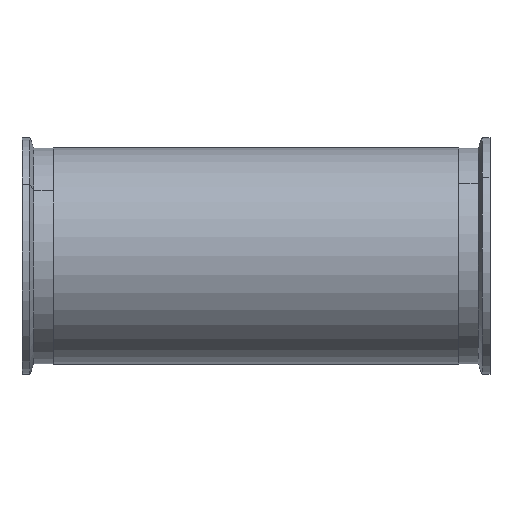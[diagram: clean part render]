
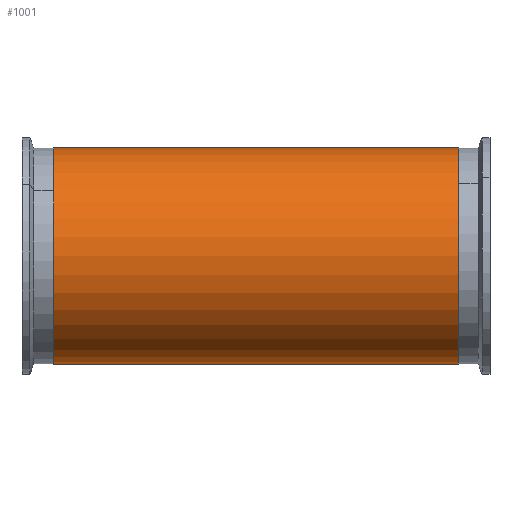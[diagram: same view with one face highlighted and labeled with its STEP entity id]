
A CAD part, front view. The second image highlights one B-rep face of the part: STEP entity #1001.
In plain terms, the highlighted cylindrical face has radius 76.2 mm (diameter 152.4 mm), a partial arc.
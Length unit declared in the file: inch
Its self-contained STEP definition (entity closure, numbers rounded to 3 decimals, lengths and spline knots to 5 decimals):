
#14 = ORIENTED_EDGE ( 'NONE', *, *, #122, .F. ) ;
#100 = CARTESIAN_POINT ( 'NONE',  ( -5.625, 0., 0. ) ) ;
#122 = EDGE_CURVE ( 'NONE', #265, #1537, #697, .T. ) ;
#265 = VERTEX_POINT ( 'NONE', #581 ) ;
#315 = CARTESIAN_POINT ( 'NONE',  ( 5.625, 0., 0. ) ) ;
#519 = CARTESIAN_POINT ( 'NONE',  ( -5.625, 0., 3. ) ) ;
#536 = DIRECTION ( 'NONE',  ( -1., 0., 0. ) ) ;
#581 = CARTESIAN_POINT ( 'NONE',  ( 5.625, 0., -3. ) ) ;
#597 = CIRCLE ( 'NONE', #1026, 3. ) ;
#643 = EDGE_CURVE ( 'NONE', #1045, #265, #1018, .T. ) ;
#697 = LINE ( 'NONE', #1887, #1794 ) ;
#724 = DIRECTION ( 'NONE',  ( 1., 0., 0. ) ) ;
#919 = AXIS2_PLACEMENT_3D ( 'NONE', #315, #1491, #1816 ) ;
#975 = CYLINDRICAL_SURFACE ( 'NONE', #1398, 3. ) ;
#1001 = ADVANCED_FACE ( 'NONE', ( #1873 ), #975, .T. ) ;
#1018 = CIRCLE ( 'NONE', #919, 3. ) ;
#1026 = AXIS2_PLACEMENT_3D ( 'NONE', #100, #724, #1319 ) ;
#1045 = VERTEX_POINT ( 'NONE', #1275 ) ;
#1049 = VECTOR ( 'NONE', #1214, 39.37008 ) ;
#1069 = CARTESIAN_POINT ( 'NONE',  ( 5.625, 0., 3. ) ) ;
#1214 = DIRECTION ( 'NONE',  ( -1., 0., 0. ) ) ;
#1235 = EDGE_LOOP ( 'NONE', ( #14, #1804, #1784, #1601 ) ) ;
#1275 = CARTESIAN_POINT ( 'NONE',  ( 5.625, 0., 3. ) ) ;
#1319 = DIRECTION ( 'NONE',  ( 0., 0., -1. ) ) ;
#1398 = AXIS2_PLACEMENT_3D ( 'NONE', #1864, #536, #1689 ) ;
#1491 = DIRECTION ( 'NONE',  ( 1., 0., 0. ) ) ;
#1519 = CARTESIAN_POINT ( 'NONE',  ( -5.625, 0., -3. ) ) ;
#1531 = EDGE_CURVE ( 'NONE', #1045, #1646, #1840, .T. ) ;
#1537 = VERTEX_POINT ( 'NONE', #1519 ) ;
#1601 = ORIENTED_EDGE ( 'NONE', *, *, #1916, .T. ) ;
#1646 = VERTEX_POINT ( 'NONE', #519 ) ;
#1689 = DIRECTION ( 'NONE',  ( 0., 0., 1. ) ) ;
#1732 = DIRECTION ( 'NONE',  ( -1., 0., 0. ) ) ;
#1784 = ORIENTED_EDGE ( 'NONE', *, *, #1531, .T. ) ;
#1794 = VECTOR ( 'NONE', #1732, 39.37008 ) ;
#1804 = ORIENTED_EDGE ( 'NONE', *, *, #643, .F. ) ;
#1816 = DIRECTION ( 'NONE',  ( 0., 0., -1. ) ) ;
#1840 = LINE ( 'NONE', #1069, #1049 ) ;
#1864 = CARTESIAN_POINT ( 'NONE',  ( 5.625, 0., 0. ) ) ;
#1873 = FACE_OUTER_BOUND ( 'NONE', #1235, .T. ) ;
#1887 = CARTESIAN_POINT ( 'NONE',  ( 5.625, 0., -3. ) ) ;
#1916 = EDGE_CURVE ( 'NONE', #1646, #1537, #597, .T. ) ;
